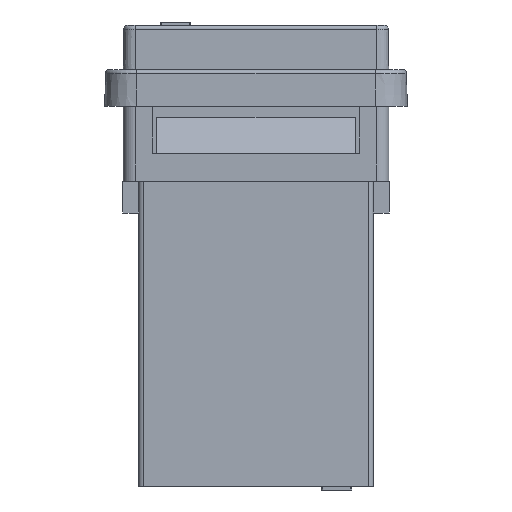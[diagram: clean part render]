
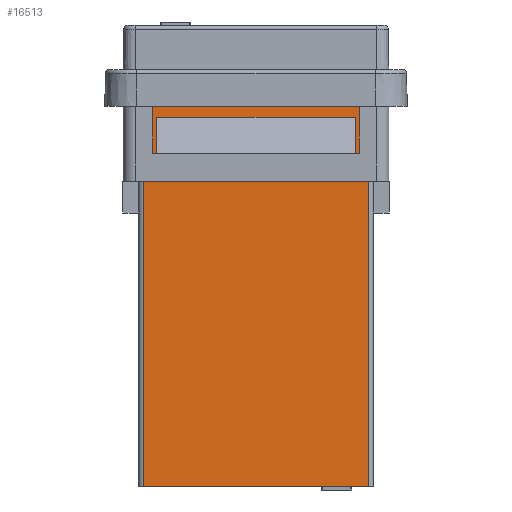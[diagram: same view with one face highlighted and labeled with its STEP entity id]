
A CAD part, left-side view. The second image highlights one B-rep face of the part: STEP entity #16513.
In plain terms, the highlighted planar face has unit normal (-1, 0, 0).
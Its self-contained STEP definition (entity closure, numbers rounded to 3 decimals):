
#210=FACE_BOUND('',#1888,.T.);
#1029=FACE_OUTER_BOUND('',#1887,.T.);
#1887=EDGE_LOOP('',(#12757,#12758,#12759,#12760));
#1888=EDGE_LOOP('',(#12761,#12762,#12763,#12764));
#2454=LINE('',#22770,#4431);
#2457=LINE('',#22775,#4434);
#2502=LINE('',#22881,#4479);
#3376=LINE('',#25017,#5353);
#3377=LINE('',#25019,#5354);
#3478=LINE('',#25238,#5455);
#3479=LINE('',#25241,#5456);
#3480=LINE('',#25243,#5457);
#4431=VECTOR('',#18440,10.);
#4434=VECTOR('',#18445,10.);
#4479=VECTOR('',#18542,10.);
#5353=VECTOR('',#20308,10.);
#5354=VECTOR('',#20311,10.);
#5455=VECTOR('',#20442,10.);
#5456=VECTOR('',#20447,10.);
#5457=VECTOR('',#20450,10.);
#6376=VERTEX_POINT('',#22727);
#6377=VERTEX_POINT('',#22729);
#6389=VERTEX_POINT('',#22767);
#6390=VERTEX_POINT('',#22769);
#6391=VERTEX_POINT('',#22773);
#6425=VERTEX_POINT('',#22878);
#6426=VERTEX_POINT('',#22880);
#7058=VERTEX_POINT('',#25015);
#7966=EDGE_CURVE('',#6390,#6389,#2454,.T.);
#7969=EDGE_CURVE('',#6389,#6391,#2457,.T.);
#8021=EDGE_CURVE('',#6425,#6426,#2502,.T.);
#9008=EDGE_CURVE('',#6391,#7058,#3376,.T.);
#9009=EDGE_CURVE('',#7058,#6390,#3377,.T.);
#9121=EDGE_CURVE('',#6376,#6377,#3478,.T.);
#9123=EDGE_CURVE('',#6377,#6425,#3479,.T.);
#9124=EDGE_CURVE('',#6426,#6376,#3480,.T.);
#12757=ORIENTED_EDGE('',*,*,#9123,.F.);
#12758=ORIENTED_EDGE('',*,*,#9121,.F.);
#12759=ORIENTED_EDGE('',*,*,#9124,.F.);
#12760=ORIENTED_EDGE('',*,*,#8021,.F.);
#12761=ORIENTED_EDGE('',*,*,#7969,.T.);
#12762=ORIENTED_EDGE('',*,*,#9008,.T.);
#12763=ORIENTED_EDGE('',*,*,#9009,.T.);
#12764=ORIENTED_EDGE('',*,*,#7966,.T.);
#14921=PLANE('',#17512);
#16513=ADVANCED_FACE('',(#1029,#210),#14921,.T.);
#17512=AXIS2_PLACEMENT_3D('',#25242,#20448,#20449);
#18440=DIRECTION('',(0.,1.,0.));
#18445=DIRECTION('',(0.,0.,1.));
#18542=DIRECTION('',(0.,1.,0.));
#20308=DIRECTION('',(0.,-1.,0.));
#20311=DIRECTION('',(0.,0.,-1.));
#20442=DIRECTION('',(0.,-1.,0.));
#20447=DIRECTION('',(0.,0.,-1.));
#20448=DIRECTION('center_axis',(-1.,0.,0.));
#20449=DIRECTION('ref_axis',(0.,1.,0.));
#20450=DIRECTION('',(0.,0.,1.));
#22727=CARTESIAN_POINT('',(-8.2,7.075,0.));
#22729=CARTESIAN_POINT('',(-8.2,-7.075,0.));
#22767=CARTESIAN_POINT('',(-8.2,6.25,-8.2));
#22769=CARTESIAN_POINT('',(-8.2,-6.25,-8.2));
#22770=CARTESIAN_POINT('',(-8.2,-3.688,-8.2));
#22773=CARTESIAN_POINT('',(-8.2,6.25,-5.775));
#22775=CARTESIAN_POINT('',(-8.2,6.25,-3.494));
#22878=CARTESIAN_POINT('',(-8.2,-7.075,-29.));
#22880=CARTESIAN_POINT('',(-8.2,7.075,-29.));
#22881=CARTESIAN_POINT('',(-8.2,-7.375,-29.));
#25015=CARTESIAN_POINT('',(-8.2,-6.25,-5.775));
#25017=CARTESIAN_POINT('',(-8.2,-3.688,-5.775));
#25019=CARTESIAN_POINT('',(-8.2,-6.25,-3.494));
#25238=CARTESIAN_POINT('',(-8.2,7.375,0.));
#25241=CARTESIAN_POINT('',(-8.2,-7.075,0.));
#25242=CARTESIAN_POINT('Origin',(-8.2,-7.375,0.));
#25243=CARTESIAN_POINT('',(-8.2,7.075,0.));
